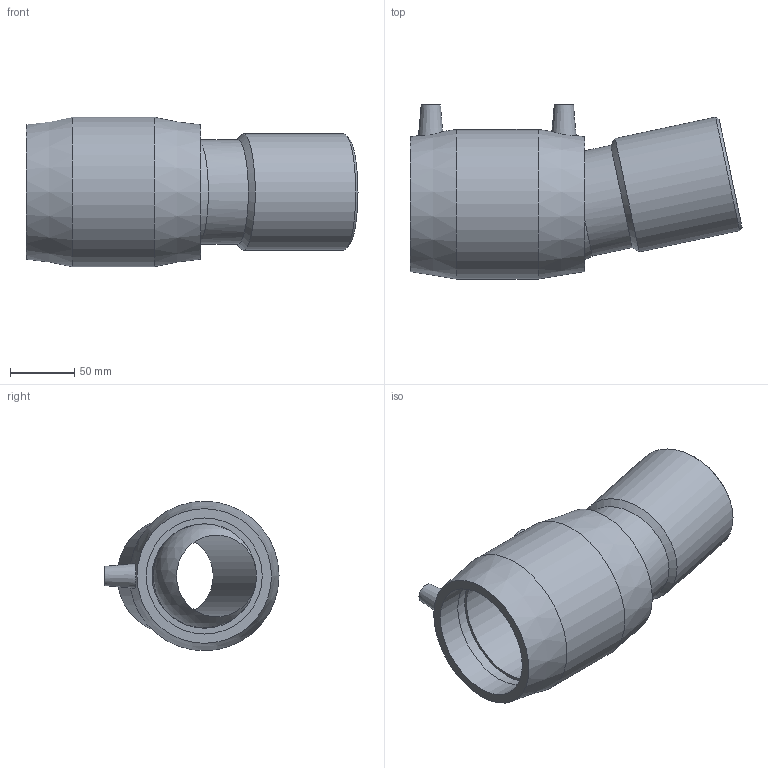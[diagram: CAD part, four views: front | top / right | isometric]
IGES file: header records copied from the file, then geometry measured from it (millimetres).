
Global section: file name: 4947D4090.ipt; native system: Autodesk Inventor 2015; preprocessor: unknown; author: KIM; date: 20190124.130456; units: millimetre
Bounding box: 257.52 x 135 x 116 mm (x, y, z)
Volume: 983808.5 mm3; surface area: 162682.9 mm2
Topology: 1 solids, 1 shells, 32 faces, 74 edges, 49 vertices
Faces by surface type: plane 11, revolution 7, cone 6, cylinder 6, sphere 2
Full cylindrical faces by diameter (mm): 4 x2, 81 x1, 90 x1, 116 x1
